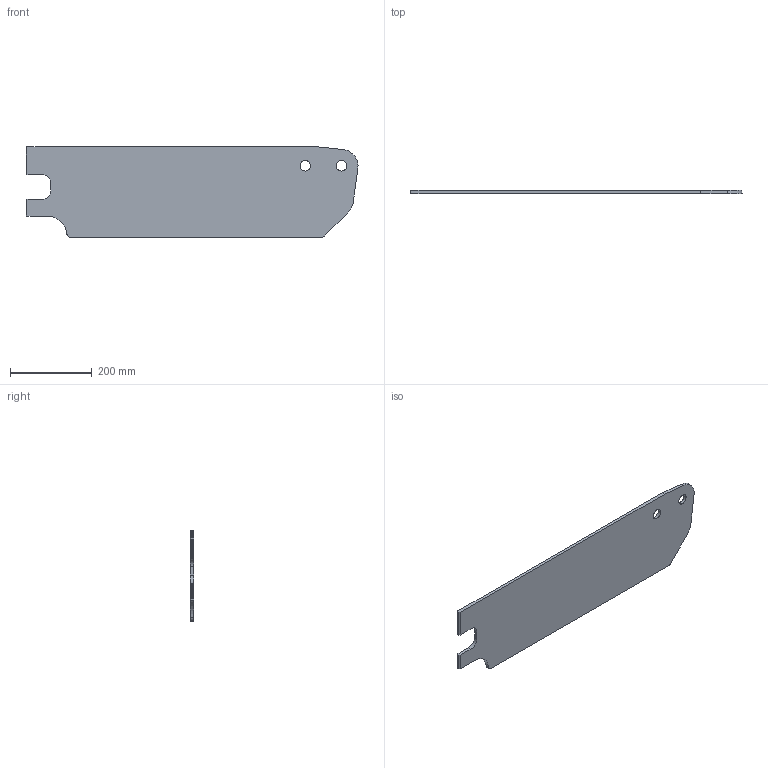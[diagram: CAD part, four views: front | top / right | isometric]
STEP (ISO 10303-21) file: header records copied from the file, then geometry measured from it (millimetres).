
FILE_DESCRIPTION (( 'STEP AP203' ), '1' );
FILE_NAME ('YYDK-500-0033-3 支架侧板1（500T）.step', '2026-03-04T03:12:53', ( 'Windows 用户' ), ( '' ), 'SwSTEP 2.0', 'SolidWorks 2020', '' );
FILE_SCHEMA (( 'CONFIG_CONTROL_DESIGN' ));
Length unit declared in the file: millimetre
Products named in the file (1): YYDK-500-0033-3 支架侧板1（500T）
Bounding box: 810.47 x 8.42 x 220.8 mm (x, y, z)
Volume: 1317916.2 mm3; surface area: 347084.2 mm2
Topology: 1 solids, 1 shells, 28 faces, 78 edges, 52 vertices
Faces by surface type: plane 17, cylinder 11
Entity records: 989 total; most frequent: CARTESIAN_POINT 159, DIRECTION 158, ORIENTED_EDGE 156, EDGE_CURVE 78, VECTOR 56, LINE 56, VERTEX_POINT 52, AXIS2_PLACEMENT_3D 51
